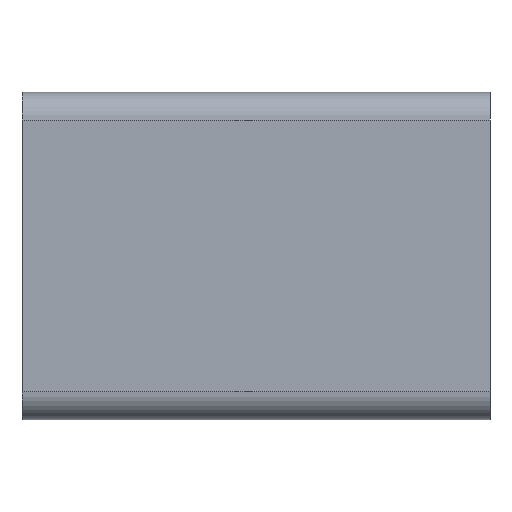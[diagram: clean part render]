
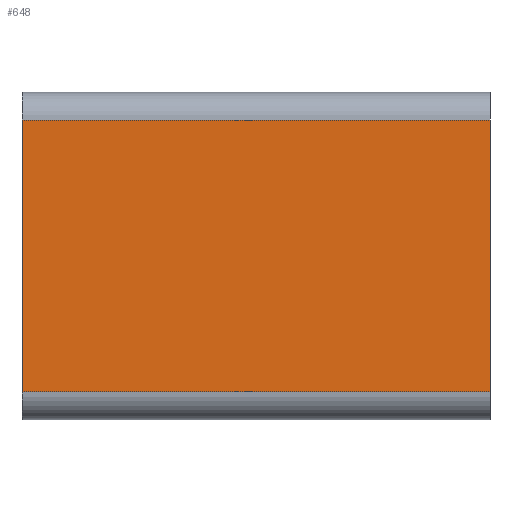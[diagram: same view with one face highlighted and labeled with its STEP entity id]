
A CAD part, top view. The second image highlights one B-rep face of the part: STEP entity #648.
In plain terms, the highlighted planar face has unit normal (0, 0, 1).
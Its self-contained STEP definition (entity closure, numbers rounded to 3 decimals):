
#590=CARTESIAN_POINT('',(-3.0,32.,0.));
#591=VERTEX_POINT('',#590);
#599=CARTESIAN_POINT('',(47.0,32.0,0.));
#600=VERTEX_POINT('',#599);
#601=CARTESIAN_POINT('',(47.0,32.0,0.));
#602=DIRECTION('',(-1.0,0.0,0.0));
#603=VECTOR('',#602,50.0);
#604=LINE('',#601,#603);
#605=EDGE_CURVE('',#600,#591,#604,.T.);
#618=CARTESIAN_POINT('',(47.0,32.0,0.));
#619=DIRECTION('',(0.0,0.0,1.0));
#620=DIRECTION('',(0.0,1.0,0.0));
#621=AXIS2_PLACEMENT_3D('',#618,#619,#620);
#622=PLANE('',#621);
#623=CARTESIAN_POINT('',(-3.0,3.0,0.));
#624=VERTEX_POINT('',#623);
#625=CARTESIAN_POINT('',(-3.0,32.,0.));
#626=DIRECTION('',(0.0,-1.0,0.0));
#627=VECTOR('',#626,29.);
#628=LINE('',#625,#627);
#629=EDGE_CURVE('',#591,#624,#628,.T.);
#630=ORIENTED_EDGE('',*,*,#629,.T.);
#631=CARTESIAN_POINT('',(47.0,3.,0.));
#632=VERTEX_POINT('',#631);
#633=CARTESIAN_POINT('',(47.0,3.,0.));
#634=DIRECTION('',(-1.0,0.0,0.0));
#635=VECTOR('',#634,50.0);
#636=LINE('',#633,#635);
#637=EDGE_CURVE('',#632,#624,#636,.T.);
#638=ORIENTED_EDGE('',*,*,#637,.F.);
#639=CARTESIAN_POINT('',(47.0,32.0,0.));
#640=DIRECTION('',(0.0,-1.0,0.0));
#641=VECTOR('',#640,29.);
#642=LINE('',#639,#641);
#643=EDGE_CURVE('',#600,#632,#642,.T.);
#644=ORIENTED_EDGE('',*,*,#643,.F.);
#645=ORIENTED_EDGE('',*,*,#605,.T.);
#646=EDGE_LOOP('',(#630,#638,#644,#645));
#647=FACE_OUTER_BOUND('',#646,.T.);
#648=ADVANCED_FACE('',(#647),#622,.T.);
